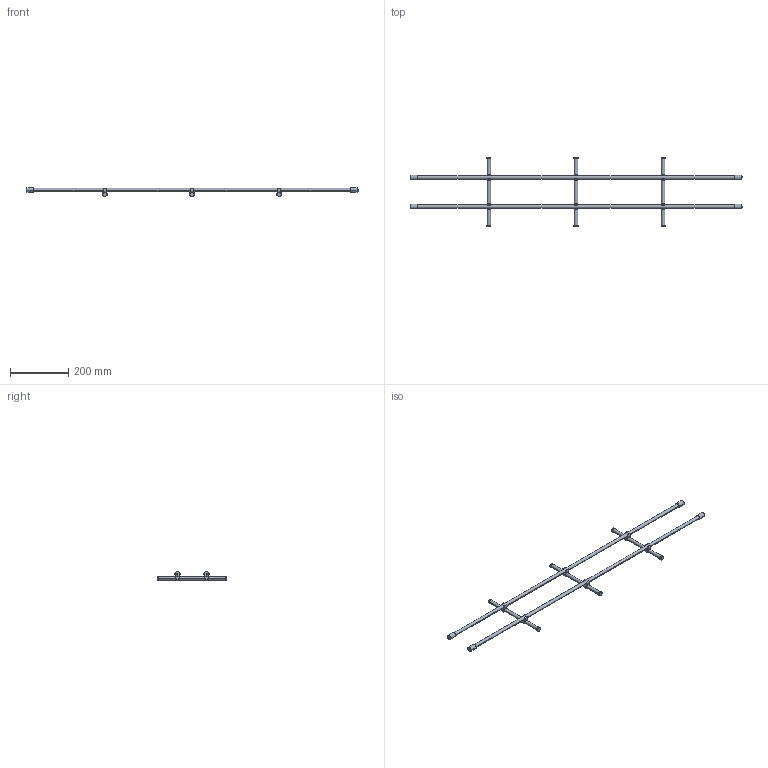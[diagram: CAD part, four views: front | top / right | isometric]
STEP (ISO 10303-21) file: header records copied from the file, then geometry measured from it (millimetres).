
FILE_DESCRIPTION (( 'STEP AP214' ), '1' );
FILE_NAME ('Magic-Classic_NL-275-KAB 1200.step', '2010-09-16T12:49:29', ( 'grass' ), ( '' ), 'SwSTEP 2.0', 'SolidWorks 2010', '' );
FILE_SCHEMA (( 'AUTOMOTIVE_DESIGN' ));
Length unit declared in the file: millimetre
Products named in the file (1): Magic-Classic_NL-275-KAB 1200
Bounding box: 1143 x 240 x 30.45 mm (x, y, z)
Volume: 363973.2 mm3; surface area: 121149.8 mm2
Topology: 1 solids, 1 shells, 190 faces, 534 edges, 356 vertices
Faces by surface type: plane 104, cylinder 86
Entity records: 6260 total; most frequent: DIRECTION 1136, CARTESIAN_POINT 1081, ORIENTED_EDGE 1068, EDGE_CURVE 534, AXIS2_PLACEMENT_3D 411, VERTEX_POINT 356, LINE 314, VECTOR 314
